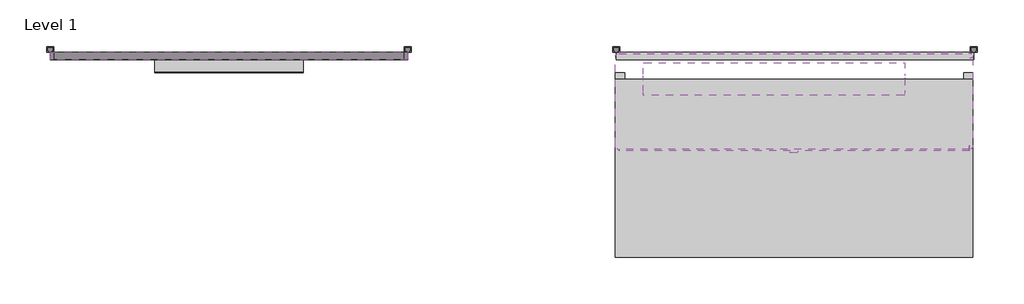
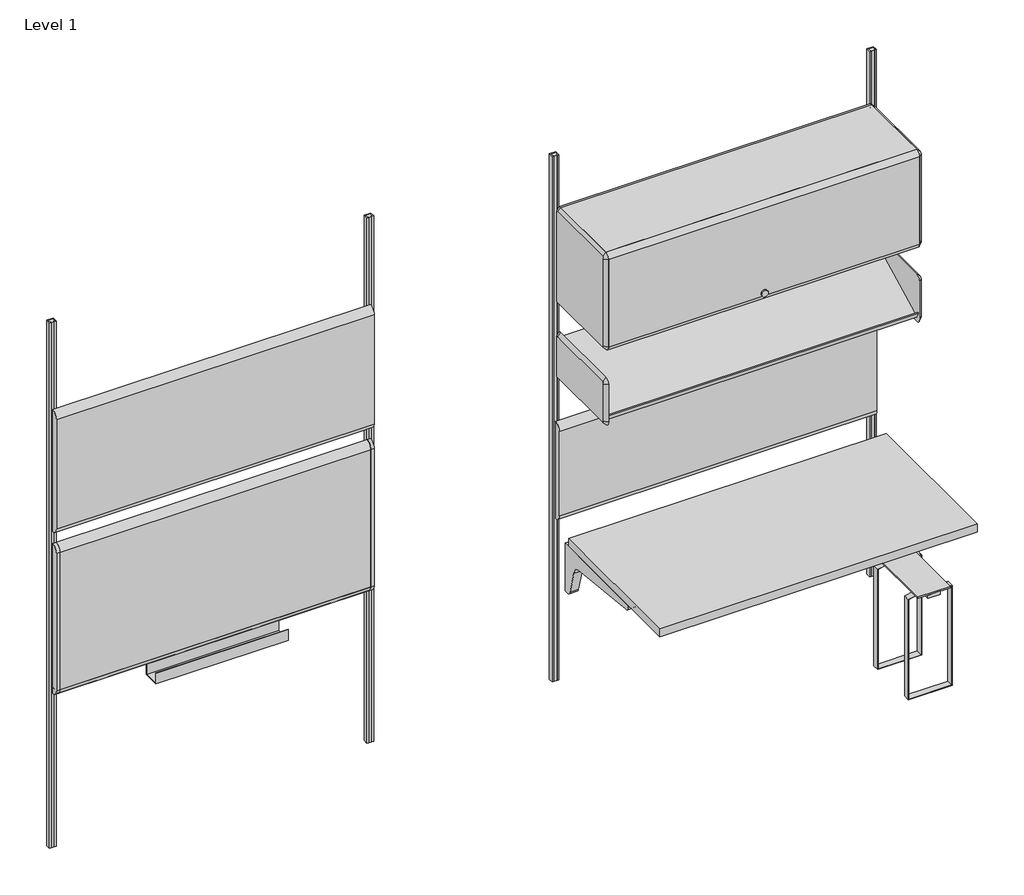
# One storey, incomplete: 11 furniture elements, 1 light fixture.
"""IFC4 building model written with IfcOpenShell, lengths in millimetres."""

from ifc_helpers import new_model, si_unit, origin, place, context, project, spatial, transform, mapped, element, save
from components import furniture_793f8ccc, furniture_083a197f, furniture_243052f0, furniture_ef268846, furniture_439dfb7c, furniture_33cd207f, furniture_ea425779, vertical_72eab502, light_fixture_63fea846

model = new_model("IFC4")

# Units and contexts
model_context = context("Model", 3, world=origin())
ifc_project = project(units=[si_unit("LENGTHUNIT", "METRE", prefix="MILLI")], contexts=[model_context])

# Site, building, storey
site = spatial("IfcSite", under=ifc_project)
building = spatial("IfcBuilding", under=site)
storey = spatial("IfcBuildingStorey", under=building, Name="Level 1", Elevation=0.0)

# Furniture
placement = place(None, origin())
furniture_shape = furniture_793f8ccc(model_context)
element("IfcFurniture", 1, ObjectType="HermanMiller_ActionOffice_A3410_B-StyleTackboard : 16\"H x 48\"W", at=placement, inside=storey, context=model_context, shape_type="MappedRepresentation", body=[
    mapped(furniture_shape, transform((2540.0, -31.75, 0.0), x_axis=(1.0, 0.0, 0.0), y_axis=(0.0, 1.0, 0.0), z_axis=(0.0, 0.0, 1.0))),
])
furniture_2_shape = furniture_083a197f(model_context)
element("IfcFurniture", 2, ObjectType="HermanMiller_ActionOffice_A2310_Sq-EdgeRectangularWorkSurface : 24\"D x 48\"W", at=placement, inside=storey, context=model_context, shape_type="MappedRepresentation", body=[
    mapped(furniture_2_shape, transform((2537.32538, -403.81428, 0.0), x_axis=(1.0, 0.0, 0.0), y_axis=(0.0, 1.0, 0.0), z_axis=(0.0, 0.0, 1.0))),
])
furniture_3_shape = furniture_243052f0(model_context)
element("IfcFurniture", 3, ObjectType="HermanMiller_ActionOffice_A3410_B-StyleTackboard : 20\"H x 48\"W", at=placement, inside=storey, context=model_context, shape_type="MappedRepresentation", body=[
    mapped(furniture_3_shape, transform((609.6, -31.75, 0.0), x_axis=(1.0, 0.0, 0.0), y_axis=(0.0, 1.0, 0.0), z_axis=(0.0, 0.0, 1.0))),
])
furniture_4_shape = furniture_ef268846(model_context)
element("IfcFurniture", 4, ObjectType="HermanMiller_ActionOffice_A3510_B-StyleMarkerBoard : 24\"H x 48\"W", at=placement, inside=storey, context=model_context, shape_type="MappedRepresentation", body=[
    mapped(furniture_4_shape, transform((609.6, -31.75, 0.0), x_axis=(1.0, 0.0, 0.0), y_axis=(0.0, 1.0, 0.0), z_axis=(0.0, 0.0, 1.0))),
])
furniture_5_shape = furniture_439dfb7c(model_context)
element("IfcFurniture", 5, ObjectType="HermanMiller_ActionOffice_A3220_B-StyleStorageDisplay : Display 13\"D x 48\"W", at=placement, inside=storey, context=model_context, shape_type="MappedRepresentation", body=[
    mapped(furniture_5_shape, transform((2661.2673845, -200.025, 0.0), x_axis=(1.0, 0.0, 0.0), y_axis=(0.0, 1.0, 0.0), z_axis=(0.0, 0.0, 1.0))),
])
furniture_6_shape = furniture_33cd207f(model_context)
element("IfcFurniture", 6, ObjectType="HermanMiller_ActionOffice_A3352_B-StyleFlipperDoorUnit : 15 1/2\"H x 13\"D x 48\"W", at=placement, inside=storey, context=model_context, shape_type="MappedRepresentation", body=[
    mapped(furniture_6_shape, transform((2537.32538, -200.025, 0.0), x_axis=(1.0, 0.0, 0.0), y_axis=(0.0, 1.0, 0.0), z_axis=(0.0, 0.0, 1.0))),
])
furniture_7_shape = furniture_ea425779(model_context)
element("IfcFurniture", 7, ObjectType="HermanMiller_ActionOffice_AO213_WallStrip : 84\"H", at=placement, inside=storey, context=model_context, shape_type="MappedRepresentation", body=[
    mapped(furniture_7_shape, transform((1219.2, 0.0, 0.0), x_axis=(1.0, 0.0, 0.0), y_axis=(0.0, 1.0, 0.0), z_axis=(0.0, 0.0, 1.0))),
])
element("IfcFurniture", 8, ObjectType="HermanMiller_ActionOffice_AO213_WallStrip : 84\"H", at=placement, inside=storey, context=model_context, shape_type="MappedRepresentation", body=[
    mapped(furniture_7_shape, transform((0.0, 0.0, 0.0), x_axis=(1.0, 0.0, 0.0), y_axis=(0.0, 1.0, 0.0), z_axis=(0.0, 0.0, 1.0))),
])
element("IfcFurniture", 9, ObjectType="HermanMiller_ActionOffice_AO213_WallStrip : 84\"H", at=placement, inside=storey, context=model_context, shape_type="MappedRepresentation", body=[
    mapped(furniture_7_shape, transform((3149.6, 0.0, 0.0), x_axis=(1.0, 0.0, 0.0), y_axis=(0.0, 1.0, 0.0), z_axis=(0.0, 0.0, 1.0))),
])
element("IfcFurniture", 10, ObjectType="HermanMiller_ActionOffice_AO213_WallStrip : 84\"H", at=placement, inside=storey, context=model_context, shape_type="MappedRepresentation", body=[
    mapped(furniture_7_shape, transform((1930.4, 0.0, 0.0), x_axis=(1.0, 0.0, 0.0), y_axis=(0.0, 1.0, 0.0), z_axis=(0.0, 0.0, 1.0))),
])
vertical_shape = vertical_72eab502(model_context)
element("IfcFurniture", 11, ObjectType="HermanMiller_ThrivePortfolio_Y7813_CPUHolder : Vertical", at=placement, inside=storey, context=model_context, shape_type="MappedRepresentation", body=[
    mapped(vertical_shape, transform((3000.49692, -543.51428, 0.0), x_axis=(1.0, 0.0, 0.0), y_axis=(0.0, 1.0, 0.0), z_axis=(0.0, 0.0, 1.0))),
])

# Light fixture
light_fixture_shape = light_fixture_63fea846(model_context)
element("IfcLightFixture", 12, ObjectType="HermanMiller_SupplementalProducts_G6136_UtilityTaskLight : AO Etho Canvas 42W", at=placement, inside=storey, context=model_context, shape_type="MappedRepresentation", body=[
    mapped(light_fixture_shape, transform((2468.118, -111.125, 0.0), x_axis=(1.0, 0.0, 0.0), y_axis=(0.0, 1.0, 0.0), z_axis=(0.0, 0.0, 1.0))),
])

save(model, "model.ifc")
